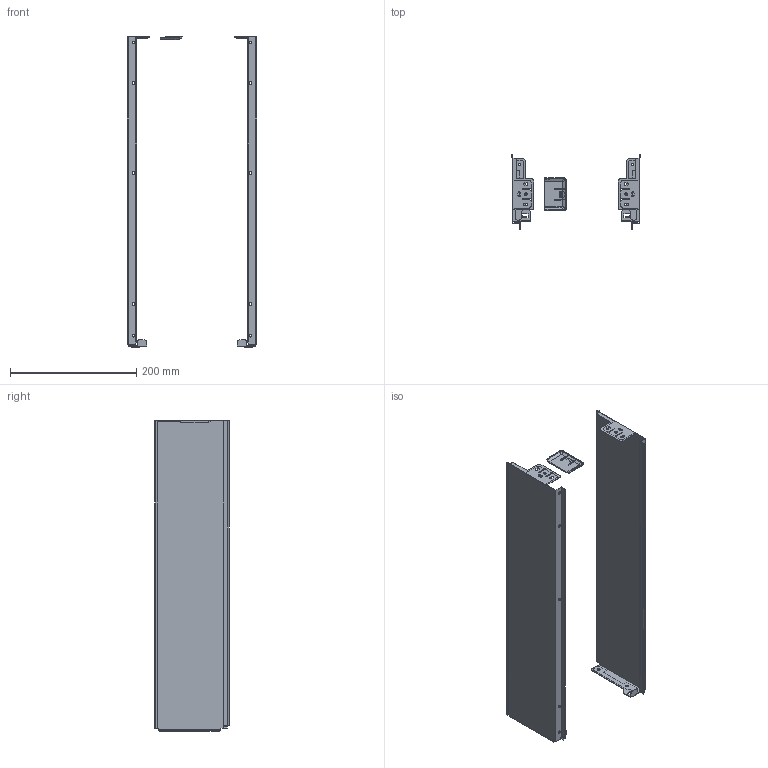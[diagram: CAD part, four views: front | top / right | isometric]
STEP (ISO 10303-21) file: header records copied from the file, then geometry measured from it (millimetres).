
FILE_DESCRIPTION (( 'STEP AP203' ), '1' );
FILE_NAME ('541766.STEP', '2026-04-29T12:48:06', ( '' ), ( '' ), 'SwSTEP 2.0', 'SolidWorks 2025', '' );
FILE_SCHEMA (( 'CONFIG_CONTROL_DESIGN' ));
Length unit declared in the file: millimetre
Products named in the file (4): StrongMini krytka šroubů; 541766; StrongMini bočnice_L_gen_541766_L; StrongMini bočnice_P_gen_541766_P
Assembly tree (3 placements, depth 2):
  541766
    StrongMini bočnice_L_gen_541766_L
    StrongMini bočnice_P_gen_541766_P
    StrongMini krytka šroubů
Bounding box: 205.4 x 118.07 x 492.3 mm (x, y, z)
Volume: 120778.2 mm3; surface area: 288420.1 mm2
Topology: 3 solids, 3 shells, 314 faces, 899 edges, 592 vertices
Faces by surface type: plane 236, cylinder 60, cone 18
Full cylindrical faces by diameter (mm): 4.5 x16
Entity records: 10483 total; most frequent: CARTESIAN_POINT 1853, ORIENTED_EDGE 1734, DIRECTION 1609, EDGE_CURVE 867, LINE 725, VECTOR 725, VERTEX_POINT 582, AXIS2_PLACEMENT_3D 442
